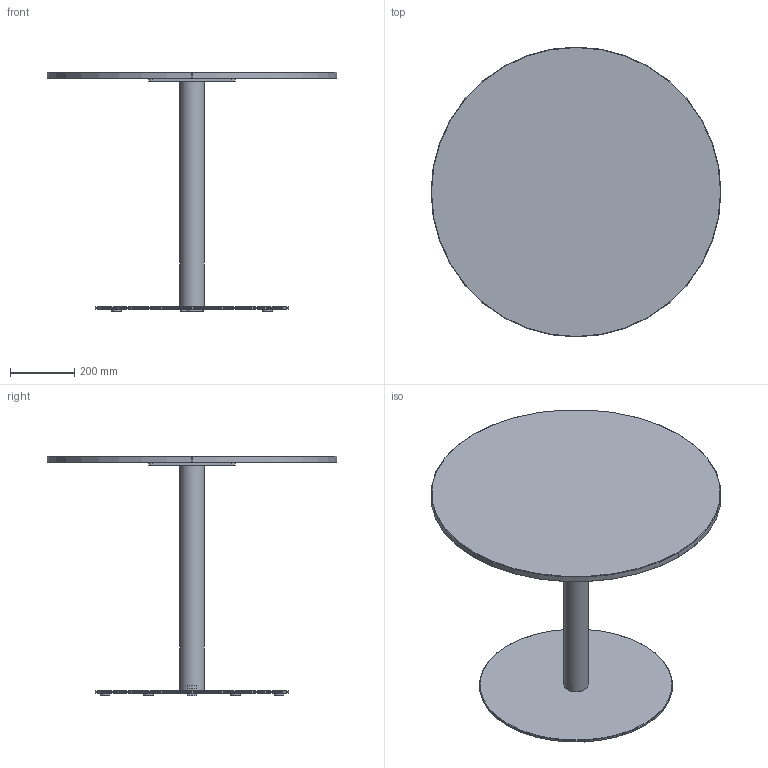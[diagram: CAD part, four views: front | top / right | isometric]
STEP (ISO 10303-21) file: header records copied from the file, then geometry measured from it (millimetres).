
FILE_DESCRIPTION( ('This file contains a STEP AP42 implementation' ,'as created by ZW3D STEP Interface translator.') ,'2;1' );
FILE_NAME( 'Henri - B_Rond - F1 - M1 - 900 x 900 x 750.stp' ,'24 912.15 629', (''), ('ZWCAD Software Co.'), 'Version 1.0', 'ZW3D to STEP translator', '' );
FILE_SCHEMA(('AUTOMOTIVE_DESIGN { 1 0 10303 214 1 1 1 1 }'));
Length unit declared in the file: millimetre
Products named in the file (15): 0; PIED BISTROT PARAMETRIQUE_; COLONNE ACIER Ø76 V.02_; TUB-D076-02_; PLA-R76B-01_; CROIX ACIER 370 V.02_; CRX-X370-02_; SOCLE ACIER C Ø600 V.02_; SCL-D600-02_; PLA-R30A-01_; PLA-R30A-01; WUERTH 0276063020 Euro-screw 6.3x2 Verzinkt_; PLATEAU BISTROT PARAMETRIQUE_; insert_m6_13_; insert_m6_13
Assembly tree (24 placements, depth 3):
  0
  PIED BISTROT PARAMETRIQUE_
    COLONNE ACIER Ø76 V.02_
      TUB-D076-02_
      PLA-R76B-01_  x2
    CROIX ACIER 370 V.02_
      CRX-X370-02_
    SOCLE ACIER C Ø600 V.02_
      SCL-D600-02_
      PLA-R30A-01_
      PLA-R30A-01  x5
    WUERTH 0276063020 Euro-screw 6.3x2 Verzinkt_
    PLATEAU BISTROT PARAMETRIQUE_
      insert_m6_13_  x2
      insert_m6_13  x6
Bounding box: 900 x 900 x 744 mm (x, y, z)
Volume: 15935717.1 mm3; surface area: 2429785.5 mm2
Topology: 21 solids, 21 shells, 524 faces, 1273 edges, 802 vertices
Faces by surface type: plane 254, bspline 121, cylinder 99, cone 49, torus 1
Full cylindrical faces by diameter (mm): 4.88 x1, 6 x8, 6.3 x1, 8 x47, 12 x2, 14 x2, 30 x6, 72 x1, 76 x1, 600 x1
Entity records: 12778 total; most frequent: CARTESIAN_POINT 3716, ORIENTED_EDGE 1660, DIRECTION 1529, EDGE_CURVE 830, VERTEX_POINT 530, VECTOR 515, LINE 515, AXIS2_PLACEMENT_3D 507
